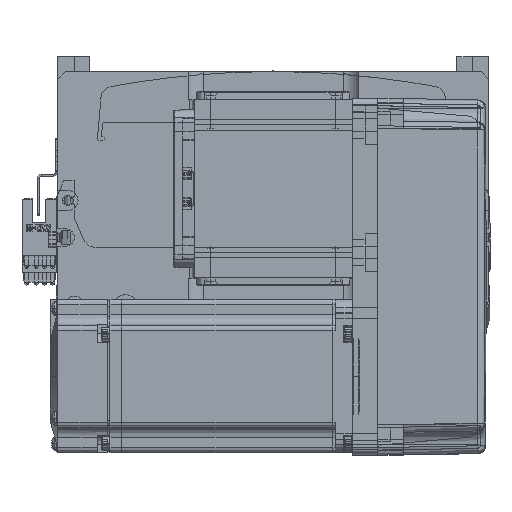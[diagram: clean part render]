
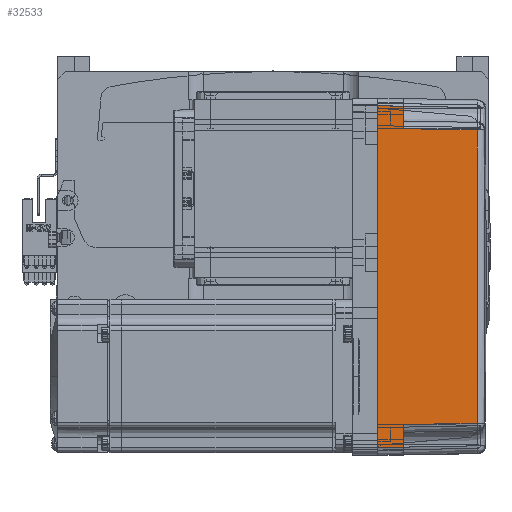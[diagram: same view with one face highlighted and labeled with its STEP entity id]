
A CAD part, top view. The second image highlights one B-rep face of the part: STEP entity #32533.
In plain terms, the highlighted planar face has unit normal (0.018, 0, 1) as drawn and (0, 1, 0.017) by its records, which use the part's own axes.
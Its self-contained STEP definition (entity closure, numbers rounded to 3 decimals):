
#10 = VERTEX_POINT ( 'NONE', #40500 ) ;
#3045 = CARTESIAN_POINT ( 'NONE',  ( 70., 36., 0. ) ) ;
#3975 = ORIENTED_EDGE ( 'NONE', *, *, #26583, .T. ) ;
#4038 = DIRECTION ( 'NONE',  ( 0., 1., 0.017 ) ) ;
#5200 = VERTEX_POINT ( 'NONE', #53943 ) ;
#5790 = DIRECTION ( 'NONE',  ( 1., 0., 0. ) ) ;
#8590 = CARTESIAN_POINT ( 'NONE',  ( 57.495, 35.32, 38.985 ) ) ;
#8698 = ORIENTED_EDGE ( 'NONE', *, *, #43250, .T. ) ;
#9769 = CARTESIAN_POINT ( 'NONE',  ( 70., 35.825, 10. ) ) ;
#10212 = CARTESIAN_POINT ( 'NONE',  ( 58., 35.825, 10. ) ) ;
#10300 = EDGE_CURVE ( 'NONE', #45525, #37276, #26690, .T. ) ;
#10571 = CARTESIAN_POINT ( 'NONE',  ( 0., 36., 0. ) ) ;
#11040 = LINE ( 'NONE', #36827, #45427 ) ;
#11287 = CARTESIAN_POINT ( 'NONE',  ( 70., 35.825, 10. ) ) ;
#13627 = CARTESIAN_POINT ( 'NONE',  ( -57.495, 35.32, 38.985 ) ) ;
#15064 = PLANE ( 'NONE',  #63815 ) ;
#15849 = DIRECTION ( 'NONE',  ( 0.017, -0.017, 1. ) ) ;
#16131 = DIRECTION ( 'NONE',  ( 1., 0., 0. ) ) ;
#16346 = DIRECTION ( 'NONE',  ( 1., 0., 0. ) ) ;
#19766 = CARTESIAN_POINT ( 'NONE',  ( -66.826, 35.825, 10. ) ) ;
#22027 = ORIENTED_EDGE ( 'NONE', *, *, #25740, .T. ) ;
#24129 = VERTEX_POINT ( 'NONE', #35258 ) ;
#24451 = DIRECTION ( 'NONE',  ( 0.017, 0.017, -1. ) ) ;
#25208 = LINE ( 'NONE', #11287, #37937 ) ;
#25740 = EDGE_CURVE ( 'NONE', #33989, #45525, #25208, .T. ) ;
#26583 = EDGE_CURVE ( 'NONE', #65475, #5200, #53989, .T. ) ;
#26690 = LINE ( 'NONE', #68125, #55641 ) ;
#29579 = DIRECTION ( 'NONE',  ( 0.017, -0.017, 1. ) ) ;
#31745 = EDGE_CURVE ( 'NONE', #24129, #33989, #40354, .T. ) ;
#32533 = ADVANCED_FACE ( 'NONE', ( #34694 ), #15064, .T. ) ;
#33922 = ORIENTED_EDGE ( 'NONE', *, *, #31745, .T. ) ;
#33989 = VERTEX_POINT ( 'NONE', #19766 ) ;
#34694 = FACE_OUTER_BOUND ( 'NONE', #65289, .T. ) ;
#35258 = CARTESIAN_POINT ( 'NONE',  ( -67., 36., 0. ) ) ;
#35787 = VERTEX_POINT ( 'NONE', #41504 ) ;
#36715 = VECTOR ( 'NONE', #29579, 1000. ) ;
#36827 = CARTESIAN_POINT ( 'NONE',  ( 57.495, 35.32, 38.985 ) ) ;
#37276 = VERTEX_POINT ( 'NONE', #49930 ) ;
#37374 = CARTESIAN_POINT ( 'NONE',  ( -19.165, 35.316, 39.181 ) ) ;
#37385 = DIRECTION ( 'NONE',  ( -0.017, -0.017, 1. ) ) ;
#37937 = VECTOR ( 'NONE', #5790, 1000. ) ;
#40354 = LINE ( 'NONE', #52842, #36715 ) ;
#40500 = CARTESIAN_POINT ( 'NONE',  ( 67., 36., 0. ) ) ;
#41504 = CARTESIAN_POINT ( 'NONE',  ( 57.495, 35.32, 38.985 ) ) ;
#43172 = CARTESIAN_POINT ( 'NONE',  ( 19.165, 35.316, 39.181 ) ) ;
#43250 = EDGE_CURVE ( 'NONE', #37276, #35787, #65294, .T. ) ;
#43376 = EDGE_CURVE ( 'NONE', #24129, #10, #68954, .T. ) ;
#44528 = EDGE_CURVE ( 'NONE', #35787, #65475, #11040, .T. ) ;
#45427 = VECTOR ( 'NONE', #24451, 1000. ) ;
#45525 = VERTEX_POINT ( 'NONE', #52486 ) ;
#45926 = ORIENTED_EDGE ( 'NONE', *, *, #51363, .F. ) ;
#48750 = CARTESIAN_POINT ( 'NONE',  ( 67.001, 36.001, -0.052 ) ) ;
#49930 = CARTESIAN_POINT ( 'NONE',  ( -57.495, 35.32, 38.985 ) ) ;
#51363 = EDGE_CURVE ( 'NONE', #10, #5200, #60462, .T. ) ;
#52354 = VECTOR ( 'NONE', #37385, 1000. ) ;
#52486 = CARTESIAN_POINT ( 'NONE',  ( -58., 35.825, 10. ) ) ;
#52842 = CARTESIAN_POINT ( 'NONE',  ( -67., 36., 0. ) ) ;
#53498 = ORIENTED_EDGE ( 'NONE', *, *, #44528, .T. ) ;
#53943 = CARTESIAN_POINT ( 'NONE',  ( 66.826, 35.825, 10. ) ) ;
#53989 = LINE ( 'NONE', #9769, #71189 ) ;
#55641 = VECTOR ( 'NONE', #15849, 1000. ) ;
#60462 = LINE ( 'NONE', #48750, #52354 ) ;
#61044 = DIRECTION ( 'NONE',  ( 0., -0.017, 1. ) ) ;
#63815 = AXIS2_PLACEMENT_3D ( 'NONE', #3045, #4038, #61044 ) ;
#65289 = EDGE_LOOP ( 'NONE', ( #33922, #22027, #74647, #8698, #53498, #3975, #45926, #69219 ) ) ;
#65294 = B_SPLINE_CURVE_WITH_KNOTS ( 'NONE', 3,
 ( #13627, #37374, #43172, #8590 ),
 .UNSPECIFIED., .F., .F.,
 ( 4, 4 ),
 ( 0., 1. ),
 .UNSPECIFIED. ) ;
#65475 = VERTEX_POINT ( 'NONE', #10212 ) ;
#68125 = CARTESIAN_POINT ( 'NONE',  ( -58., 35.825, 10. ) ) ;
#68954 = LINE ( 'NONE', #10571, #70751 ) ;
#69219 = ORIENTED_EDGE ( 'NONE', *, *, #43376, .F. ) ;
#70751 = VECTOR ( 'NONE', #16131, 1000. ) ;
#71189 = VECTOR ( 'NONE', #16346, 1000. ) ;
#74647 = ORIENTED_EDGE ( 'NONE', *, *, #10300, .T. ) ;
